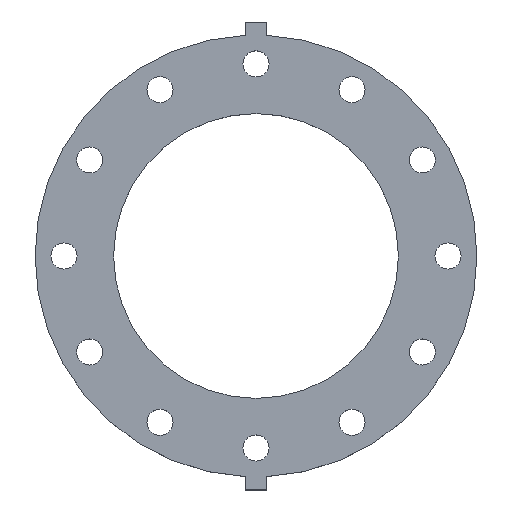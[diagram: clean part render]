
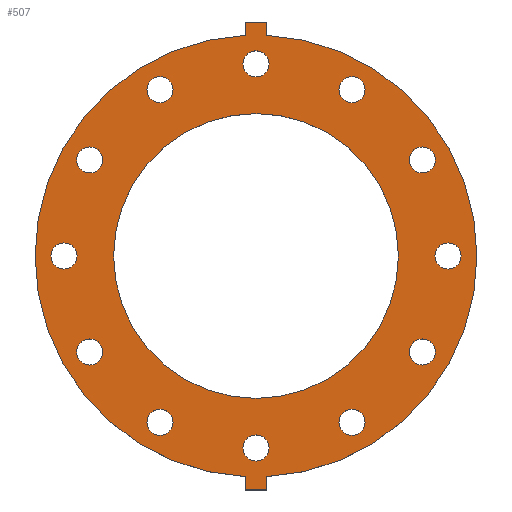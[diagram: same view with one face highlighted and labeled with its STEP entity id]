
A CAD part, top view. The second image highlights one B-rep face of the part: STEP entity #507.
In plain terms, the highlighted planar face has unit normal (0, 0, 1).
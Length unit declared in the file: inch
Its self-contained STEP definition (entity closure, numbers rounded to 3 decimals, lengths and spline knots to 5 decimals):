
#14=FACE_BOUND('',#93,.T.);
#15=FACE_BOUND('',#94,.T.);
#16=FACE_BOUND('',#95,.T.);
#17=FACE_BOUND('',#96,.T.);
#18=FACE_BOUND('',#97,.T.);
#19=FACE_BOUND('',#98,.T.);
#20=FACE_BOUND('',#99,.T.);
#21=FACE_BOUND('',#100,.T.);
#22=FACE_BOUND('',#101,.T.);
#23=FACE_BOUND('',#102,.T.);
#24=FACE_BOUND('',#103,.T.);
#25=FACE_BOUND('',#104,.T.);
#26=FACE_BOUND('',#105,.T.);
#46=PLANE('',#580);
#69=FACE_OUTER_BOUND('',#92,.T.);
#92=EDGE_LOOP('',(#405,#406,#407,#408,#409,#410,#411,#412));
#93=EDGE_LOOP('',(#413));
#94=EDGE_LOOP('',(#414));
#95=EDGE_LOOP('',(#415));
#96=EDGE_LOOP('',(#416));
#97=EDGE_LOOP('',(#417));
#98=EDGE_LOOP('',(#418));
#99=EDGE_LOOP('',(#419));
#100=EDGE_LOOP('',(#420));
#101=EDGE_LOOP('',(#421));
#102=EDGE_LOOP('',(#422));
#103=EDGE_LOOP('',(#423));
#104=EDGE_LOOP('',(#424));
#105=EDGE_LOOP('',(#425));
#139=LINE('',#825,#172);
#141=LINE('',#830,#174);
#144=LINE('',#834,#177);
#147=LINE('',#842,#180);
#150=LINE('',#846,#183);
#152=LINE('',#849,#185);
#172=VECTOR('',#695,0.3937);
#174=VECTOR('',#699,0.3937);
#177=VECTOR('',#704,0.3937);
#180=VECTOR('',#709,0.3937);
#183=VECTOR('',#714,0.3937);
#185=VECTOR('',#718,0.3937);
#186=CIRCLE('',#530,0.395);
#188=CIRCLE('',#533,0.395);
#190=CIRCLE('',#536,0.395);
#192=CIRCLE('',#539,0.395);
#194=CIRCLE('',#542,0.395);
#196=CIRCLE('',#545,0.395);
#198=CIRCLE('',#548,0.395);
#200=CIRCLE('',#551,0.395);
#202=CIRCLE('',#554,0.395);
#204=CIRCLE('',#557,0.395);
#206=CIRCLE('',#560,0.395);
#208=CIRCLE('',#563,0.395);
#211=CIRCLE('',#567,4.3125);
#213=CIRCLE('',#570,6.69);
#214=CIRCLE('',#572,6.69);
#216=VERTEX_POINT('',#725);
#218=VERTEX_POINT('',#731);
#220=VERTEX_POINT('',#737);
#222=VERTEX_POINT('',#743);
#224=VERTEX_POINT('',#749);
#226=VERTEX_POINT('',#755);
#228=VERTEX_POINT('',#761);
#230=VERTEX_POINT('',#767);
#232=VERTEX_POINT('',#773);
#234=VERTEX_POINT('',#779);
#236=VERTEX_POINT('',#785);
#238=VERTEX_POINT('',#791);
#241=VERTEX_POINT('',#799);
#243=VERTEX_POINT('',#804);
#245=VERTEX_POINT('',#808);
#247=VERTEX_POINT('',#813);
#248=VERTEX_POINT('',#815);
#251=VERTEX_POINT('',#823);
#253=VERTEX_POINT('',#829);
#256=VERTEX_POINT('',#839);
#257=VERTEX_POINT('',#841);
#258=EDGE_CURVE('',#216,#216,#186,.T.);
#261=EDGE_CURVE('',#218,#218,#188,.T.);
#264=EDGE_CURVE('',#220,#220,#190,.T.);
#267=EDGE_CURVE('',#222,#222,#192,.T.);
#270=EDGE_CURVE('',#224,#224,#194,.T.);
#273=EDGE_CURVE('',#226,#226,#196,.T.);
#276=EDGE_CURVE('',#228,#228,#198,.T.);
#279=EDGE_CURVE('',#230,#230,#200,.T.);
#282=EDGE_CURVE('',#232,#232,#202,.T.);
#285=EDGE_CURVE('',#234,#234,#204,.T.);
#288=EDGE_CURVE('',#236,#236,#206,.T.);
#291=EDGE_CURVE('',#238,#238,#208,.T.);
#296=EDGE_CURVE('',#241,#241,#211,.T.);
#300=EDGE_CURVE('',#243,#245,#213,.T.);
#302=EDGE_CURVE('',#248,#247,#214,.T.);
#307=EDGE_CURVE('',#245,#251,#139,.T.);
#309=EDGE_CURVE('',#253,#248,#141,.T.);
#312=EDGE_CURVE('',#251,#253,#144,.T.);
#315=EDGE_CURVE('',#257,#256,#147,.T.);
#318=EDGE_CURVE('',#247,#257,#150,.T.);
#320=EDGE_CURVE('',#256,#243,#152,.T.);
#405=ORIENTED_EDGE('',*,*,#320,.T.);
#406=ORIENTED_EDGE('',*,*,#300,.T.);
#407=ORIENTED_EDGE('',*,*,#307,.T.);
#408=ORIENTED_EDGE('',*,*,#312,.T.);
#409=ORIENTED_EDGE('',*,*,#309,.T.);
#410=ORIENTED_EDGE('',*,*,#302,.T.);
#411=ORIENTED_EDGE('',*,*,#318,.T.);
#412=ORIENTED_EDGE('',*,*,#315,.T.);
#413=ORIENTED_EDGE('',*,*,#258,.T.);
#414=ORIENTED_EDGE('',*,*,#261,.T.);
#415=ORIENTED_EDGE('',*,*,#264,.T.);
#416=ORIENTED_EDGE('',*,*,#267,.T.);
#417=ORIENTED_EDGE('',*,*,#270,.T.);
#418=ORIENTED_EDGE('',*,*,#273,.T.);
#419=ORIENTED_EDGE('',*,*,#276,.T.);
#420=ORIENTED_EDGE('',*,*,#279,.T.);
#421=ORIENTED_EDGE('',*,*,#282,.T.);
#422=ORIENTED_EDGE('',*,*,#285,.T.);
#423=ORIENTED_EDGE('',*,*,#288,.T.);
#424=ORIENTED_EDGE('',*,*,#291,.T.);
#425=ORIENTED_EDGE('',*,*,#296,.T.);
#507=ADVANCED_FACE('',(#69,#14,#15,#16,#17,#18,#19,#20,#21,#22,#23,#24,
#25,#26),#46,.T.);
#530=AXIS2_PLACEMENT_3D('',#726,#586,#587);
#533=AXIS2_PLACEMENT_3D('',#732,#593,#594);
#536=AXIS2_PLACEMENT_3D('',#738,#600,#601);
#539=AXIS2_PLACEMENT_3D('',#744,#607,#608);
#542=AXIS2_PLACEMENT_3D('',#750,#614,#615);
#545=AXIS2_PLACEMENT_3D('',#756,#621,#622);
#548=AXIS2_PLACEMENT_3D('',#762,#628,#629);
#551=AXIS2_PLACEMENT_3D('',#768,#635,#636);
#554=AXIS2_PLACEMENT_3D('',#774,#642,#643);
#557=AXIS2_PLACEMENT_3D('',#780,#649,#650);
#560=AXIS2_PLACEMENT_3D('',#786,#656,#657);
#563=AXIS2_PLACEMENT_3D('',#792,#663,#664);
#567=AXIS2_PLACEMENT_3D('',#801,#673,#674);
#570=AXIS2_PLACEMENT_3D('',#810,#681,#682);
#572=AXIS2_PLACEMENT_3D('',#816,#686,#687);
#580=AXIS2_PLACEMENT_3D('',#850,#719,#720);
#586=DIRECTION('center_axis',(0.,0.,-1.));
#587=DIRECTION('ref_axis',(-0.5,-0.866,0.));
#593=DIRECTION('center_axis',(0.,0.,-1.));
#594=DIRECTION('ref_axis',(-0.866,-0.5,0.));
#600=DIRECTION('center_axis',(0.,0.,-1.));
#601=DIRECTION('ref_axis',(-1.,0.,0.));
#607=DIRECTION('center_axis',(0.,0.,-1.));
#608=DIRECTION('ref_axis',(-0.866,0.5,0.));
#614=DIRECTION('center_axis',(0.,0.,-1.));
#615=DIRECTION('ref_axis',(-0.5,0.866,0.));
#621=DIRECTION('center_axis',(0.,0.,-1.));
#622=DIRECTION('ref_axis',(0.,1.,0.));
#628=DIRECTION('center_axis',(0.,0.,-1.));
#629=DIRECTION('ref_axis',(0.5,0.866,0.));
#635=DIRECTION('center_axis',(0.,0.,-1.));
#636=DIRECTION('ref_axis',(0.866,0.5,0.));
#642=DIRECTION('center_axis',(0.,0.,-1.));
#643=DIRECTION('ref_axis',(1.,0.,0.));
#649=DIRECTION('center_axis',(0.,0.,-1.));
#650=DIRECTION('ref_axis',(0.866,-0.5,0.));
#656=DIRECTION('center_axis',(0.,0.,-1.));
#657=DIRECTION('ref_axis',(0.5,-0.866,0.));
#663=DIRECTION('center_axis',(0.,0.,-1.));
#664=DIRECTION('ref_axis',(0.,-1.,0.));
#673=DIRECTION('center_axis',(0.,0.,-1.));
#674=DIRECTION('ref_axis',(0.,-1.,0.));
#681=DIRECTION('center_axis',(0.,0.,1.));
#682=DIRECTION('ref_axis',(0.,1.,0.));
#686=DIRECTION('center_axis',(0.,0.,1.));
#687=DIRECTION('ref_axis',(0.,1.,0.));
#695=DIRECTION('',(0.,-1.,0.));
#699=DIRECTION('',(0.,1.,0.));
#704=DIRECTION('',(1.,0.,0.));
#709=DIRECTION('',(-1.,0.,0.));
#714=DIRECTION('',(0.,1.,0.));
#718=DIRECTION('',(0.,-1.,0.));
#719=DIRECTION('center_axis',(0.,0.,1.));
#720=DIRECTION('ref_axis',(0.,1.,0.));
#725=CARTESIAN_POINT('',(-4.83844,3.24958,1.25));
#726=CARTESIAN_POINT('Origin',(-5.03594,2.9075,1.25));
#731=CARTESIAN_POINT('',(-2.56542,5.23344,1.25));
#732=CARTESIAN_POINT('Origin',(-2.9075,5.03594,1.25));
#737=CARTESIAN_POINT('',(0.395,5.815,1.25));
#738=CARTESIAN_POINT('Origin',(0.,5.815,1.25));
#743=CARTESIAN_POINT('',(3.24958,4.83844,1.25));
#744=CARTESIAN_POINT('Origin',(2.9075,5.03594,1.25));
#749=CARTESIAN_POINT('',(5.23344,2.56542,1.25));
#750=CARTESIAN_POINT('Origin',(5.03594,2.9075,1.25));
#755=CARTESIAN_POINT('',(5.815,-0.395,1.25));
#756=CARTESIAN_POINT('Origin',(5.815,0.,1.25));
#761=CARTESIAN_POINT('',(4.83844,-3.24958,1.25));
#762=CARTESIAN_POINT('Origin',(5.03594,-2.9075,1.25));
#767=CARTESIAN_POINT('',(2.56542,-5.23344,1.25));
#768=CARTESIAN_POINT('Origin',(2.9075,-5.03594,1.25));
#773=CARTESIAN_POINT('',(-0.395,-5.815,1.25));
#774=CARTESIAN_POINT('Origin',(0.,-5.815,1.25));
#779=CARTESIAN_POINT('',(-3.24958,-4.83844,1.25));
#780=CARTESIAN_POINT('Origin',(-2.9075,-5.03594,1.25));
#785=CARTESIAN_POINT('',(-5.23344,-2.56542,1.25));
#786=CARTESIAN_POINT('Origin',(-5.03594,-2.9075,1.25));
#791=CARTESIAN_POINT('',(-5.815,0.395,1.25));
#792=CARTESIAN_POINT('Origin',(-5.815,0.,1.25));
#799=CARTESIAN_POINT('',(0.,4.3125,1.25));
#801=CARTESIAN_POINT('Origin',(0.,0.,1.25));
#804=CARTESIAN_POINT('',(-0.32,6.68234,1.25));
#808=CARTESIAN_POINT('',(-0.32,-6.68234,1.25));
#810=CARTESIAN_POINT('Origin',(0.,0.,1.25));
#813=CARTESIAN_POINT('',(0.32,6.68234,1.25));
#815=CARTESIAN_POINT('',(0.32,-6.68234,1.25));
#816=CARTESIAN_POINT('Origin',(0.,0.,1.25));
#823=CARTESIAN_POINT('',(-0.32,-7.085,1.25));
#825=CARTESIAN_POINT('',(-0.32,-6.68234,1.25));
#829=CARTESIAN_POINT('',(0.32,-7.085,1.25));
#830=CARTESIAN_POINT('',(0.32,-7.085,1.25));
#834=CARTESIAN_POINT('',(-0.32,-7.085,1.25));
#839=CARTESIAN_POINT('',(-0.32,7.085,1.25));
#841=CARTESIAN_POINT('',(0.32,7.085,1.25));
#842=CARTESIAN_POINT('',(0.32,7.085,1.25));
#846=CARTESIAN_POINT('',(0.32,6.68234,1.25));
#849=CARTESIAN_POINT('',(-0.32,7.085,1.25));
#850=CARTESIAN_POINT('Origin',(0.,6.90165,1.25));
